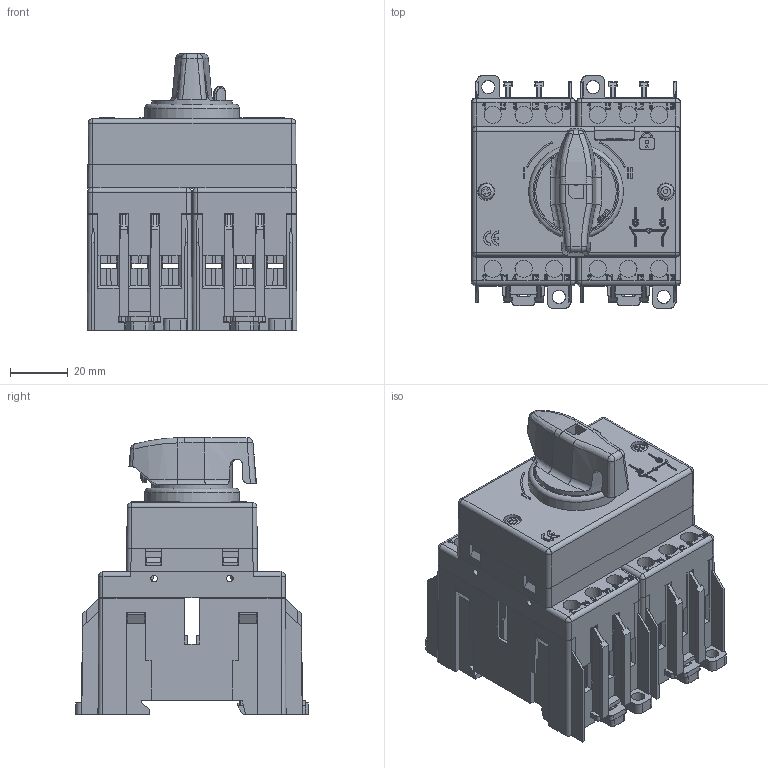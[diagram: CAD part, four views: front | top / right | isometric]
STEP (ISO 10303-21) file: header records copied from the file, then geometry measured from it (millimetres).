
FILE_DESCRIPTION((''),'2;1');
FILE_NAME('Z:\PROGETTI INVENTOR\DIEGO\4 COMMERCIALE - PRODUZIONE - INFORMATIVA\MATERIALE DI COSTRUZIONE\BLOCCHI SOLIDI 2013\BLOCCHI SOLIDI SD1\BLOCCO COMM SD1 3P 2013.stp','2013-02-19T15:48:57',('diego'),(''),'Autodesk Inventor 2013','Autodesk Inventor 2013','');
FILE_SCHEMA(('AUTOMOTIVE_DESIGN { 1 0 10303 214 1 1 1 1 }'));
Length unit declared in the file: millimetre
Products named in the file (1): BLOCCO COMM SD1 3P 2013
Bounding box: 72.92 x 81 x 96.35 mm (x, y, z)
Volume: 104736.5 mm3; surface area: 150987.8 mm2
Topology: 3 solids, 7 shells, 3266 faces, 9431 edges, 6153 vertices
Faces by surface type: plane 2522, cylinder 416, cone 213, bspline 56, torus 30, sphere 29
Full cylindrical faces by diameter (mm): 2 x11, 2.18 x4, 2.3 x8, 3.2 x3, 5.3 x1, 5.4 x2, 12.6 x1, 16.1 x2, 22 x2, 24 x3
Entity records: 114726 total; most frequent: CARTESIAN_POINT 26993, ORIENTED_EDGE 18390, DIRECTION 16590, EDGE_CURVE 9195, VECTOR 7336, LINE 7336, VERTEX_POINT 6082, AXIS2_PLACEMENT_3D 4627
